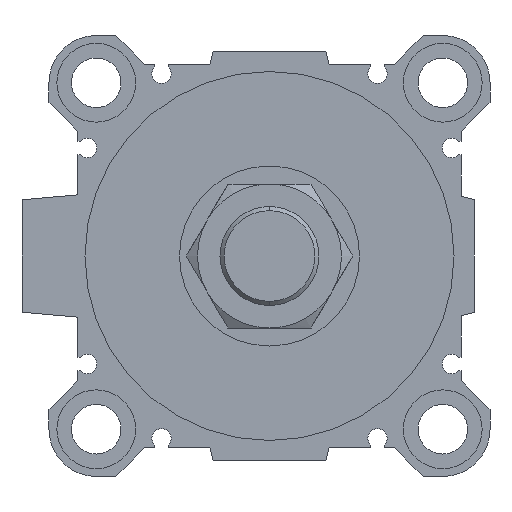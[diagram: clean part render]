
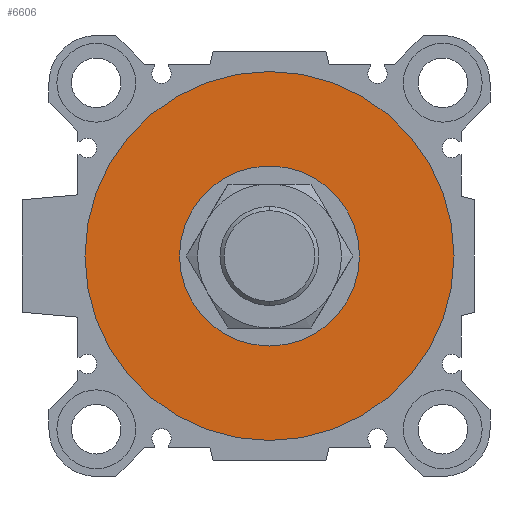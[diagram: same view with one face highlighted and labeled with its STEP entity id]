
A CAD part, left-side view. The second image highlights one B-rep face of the part: STEP entity #6606.
In plain terms, the highlighted planar face has unit normal (-1, 0, 0).
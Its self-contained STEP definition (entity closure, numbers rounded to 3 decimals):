
#414 = AXIS2_PLACEMENT_3D ( 'NONE', #1175, #1212, #7039 ) ;
#430 = ORIENTED_EDGE ( 'NONE', *, *, #6684, .T. ) ;
#455 = ORIENTED_EDGE ( 'NONE', *, *, #1721, .F. ) ;
#488 = ORIENTED_EDGE ( 'NONE', *, *, #769, .T. ) ;
#520 = CARTESIAN_POINT ( 'NONE',  ( 5., 0., 41. ) ) ;
#741 = AXIS2_PLACEMENT_3D ( 'NONE', #7186, #1937, #1404 ) ;
#769 = EDGE_CURVE ( 'NONE', #6025, #1071, #3474, .T. ) ;
#1071 = VERTEX_POINT ( 'NONE', #1203 ) ;
#1175 = CARTESIAN_POINT ( 'NONE',  ( 5., 0., 0. ) ) ;
#1203 = CARTESIAN_POINT ( 'NONE',  ( 5., 0., -20. ) ) ;
#1212 = DIRECTION ( 'NONE',  ( 1., 0., 0. ) ) ;
#1369 = DIRECTION ( 'NONE',  ( 1., 0., 0. ) ) ;
#1404 = DIRECTION ( 'NONE',  ( 0., 1., 0. ) ) ;
#1634 = DIRECTION ( 'NONE',  ( 1., 0., 0. ) ) ;
#1669 = CARTESIAN_POINT ( 'NONE',  ( 5., 0., 0. ) ) ;
#1721 = EDGE_CURVE ( 'NONE', #1743, #3522, #7442, .T. ) ;
#1743 = VERTEX_POINT ( 'NONE', #520 ) ;
#1937 = DIRECTION ( 'NONE',  ( 1., 0., 0. ) ) ;
#2287 = DIRECTION ( 'NONE',  ( 0., 0., -1. ) ) ;
#3299 = EDGE_LOOP ( 'NONE', ( #488, #430 ) ) ;
#3427 = ORIENTED_EDGE ( 'NONE', *, *, #6110, .F. ) ;
#3474 = CIRCLE ( 'NONE', #414, 20. ) ;
#3478 = DIRECTION ( 'NONE',  ( 0., 0., -1. ) ) ;
#3522 = VERTEX_POINT ( 'NONE', #6231 ) ;
#3800 = CARTESIAN_POINT ( 'NONE',  ( 5., 0., 0. ) ) ;
#3913 = CIRCLE ( 'NONE', #7465, 20. ) ;
#4452 = CARTESIAN_POINT ( 'NONE',  ( 5., 0., 20. ) ) ;
#4698 = FACE_OUTER_BOUND ( 'NONE', #5302, .T. ) ;
#4926 = CARTESIAN_POINT ( 'NONE',  ( 5., 0., 0. ) ) ;
#4962 = PLANE ( 'NONE',  #741 ) ;
#5302 = EDGE_LOOP ( 'NONE', ( #455, #3427 ) ) ;
#5603 = DIRECTION ( 'NONE',  ( 1., 0., 0. ) ) ;
#5997 = AXIS2_PLACEMENT_3D ( 'NONE', #3800, #5603, #2287 ) ;
#6025 = VERTEX_POINT ( 'NONE', #4452 ) ;
#6078 = DIRECTION ( 'NONE',  ( 0., 0., -1. ) ) ;
#6110 = EDGE_CURVE ( 'NONE', #3522, #1743, #6736, .T. ) ;
#6227 = AXIS2_PLACEMENT_3D ( 'NONE', #1669, #1634, #3478 ) ;
#6231 = CARTESIAN_POINT ( 'NONE',  ( 5., 0., -41. ) ) ;
#6606 = ADVANCED_FACE ( 'NONE', ( #4698, #7038 ), #4962, .F. ) ;
#6684 = EDGE_CURVE ( 'NONE', #1071, #6025, #3913, .T. ) ;
#6736 = CIRCLE ( 'NONE', #5997, 41. ) ;
#7038 = FACE_BOUND ( 'NONE', #3299, .T. ) ;
#7039 = DIRECTION ( 'NONE',  ( 0., 0., -1. ) ) ;
#7186 = CARTESIAN_POINT ( 'NONE',  ( 5., 0., 0. ) ) ;
#7442 = CIRCLE ( 'NONE', #6227, 41. ) ;
#7465 = AXIS2_PLACEMENT_3D ( 'NONE', #4926, #1369, #6078 ) ;
